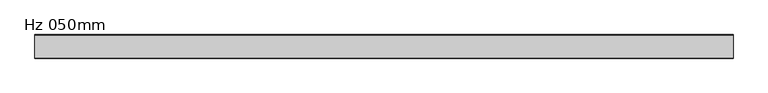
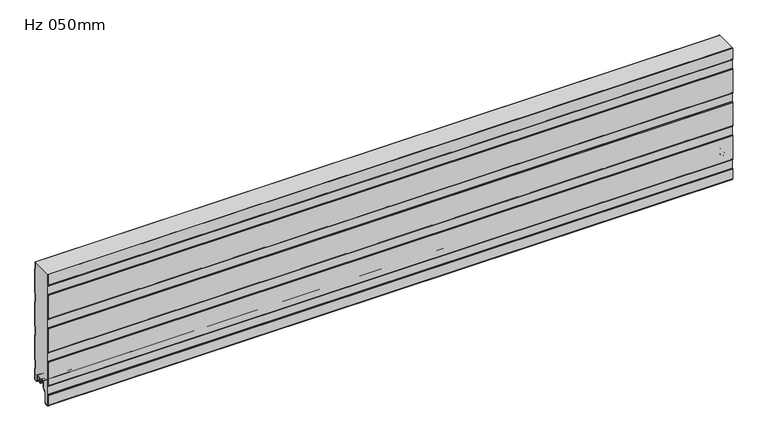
"""IFC4 building model written with IfcOpenShell, lengths in millimetres: plate geometry, KIP-MEX-KSS-1067-R19-CP-Hz-SL_SL : Hz 050mm."""

from ifc_helpers import new_model, si_unit, point, frame, frame_2d, origin, place, context, project, spatial, polyline, circle_curve, trimmed, segment, composite_curve, outline, extrude, source, transform, mapped, element, save
from ifc_brep_helpers import plane_surface, cylinder_surface, revolved_surface, advanced_brep


def hz_050mm_5bb0dca9(model_context):
    return source(origin(), model_context, "Body", "SolidModel", [
        extrude(outline(composite_curve([segment(trimmed(circle_curve(frame_2d((-21.7013969, 2.2313092)), 1.1999976), [point((-21.670875, 1.0316999))], [point((-20.5014003, 2.2328239))], True, "CARTESIAN"), True, "CONTINUOUS"), segment(polyline([(-20.5014003, 2.2328239), (-20.5014003, 5.9912173), (-21.8998791, 5.9912173), (-21.8998791, 8.6903283)]), True, "CONTINUOUS"), segment(trimmed(circle_curve(frame_2d((-25.2498744, 8.6903283)), 3.3499953), [point((-21.8998791, 8.6903283))], [point((-25.2498744, 12.0403236))], True, "CARTESIAN"), True, "CONTINUOUS"), segment(polyline([(-25.2498744, 12.0403236), (-29.6498656, 12.0403236)]), True, "CONTINUOUS"), segment(trimmed(circle_curve(frame_2d((-29.6498656, 8.6903283)), 3.3499953), [point((-29.6498656, 12.0403236))], [point((-32.9998609, 8.6903283))], True, "CARTESIAN"), True, "CONTINUOUS"), segment(polyline([(-32.9998609, 8.6903283), (-32.9998609, -3.1205608)]), True, "CONTINUOUS"), segment(trimmed(circle_curve(frame_2d((-34.6998555, -3.1205608)), 1.6999946), [point((-32.9998609, -3.1205608))], [point((-33.4977778, -4.3226385))], False, "CARTESIAN"), True, "CONTINUOUS"), segment(polyline([(-33.4977778, -4.3226385), (-38.9998489, -9.8247096), (-38.9998489, -31.9198392)]), True, "CONTINUOUS"), segment(trimmed(circle_curve(frame_2d((-41.6998415, -31.9198392)), 2.6999926), [point((-38.9998489, -31.9198392))], [point((-41.2184509, -34.5765709))], False, "CARTESIAN"), True, "CONTINUOUS"), segment(polyline([(-41.2184509, -34.5765709), (-46.2002718, -35.0125699)]), True, "CONTINUOUS"), segment(trimmed(circle_curve(frame_2d((-46.4243575, -32.4521176)), 2.5702393), [point((-46.2002718, -35.0125699))], [point((-48.9945967, -32.4521176))], False, "CARTESIAN"), True, "CONTINUOUS"), segment(polyline([(-48.9945967, -32.4521176), (-48.9945967, -10.4790962), (-47.7946282, -9.2791277), (-47.7946282, 10.4402849), (-48.9948589, 11.6405156), (-48.9948589, 65.7206473), (-47.7946282, 66.920878), (-47.7946282, 86.6402905), (-48.9948589, 87.8405213), (-48.9948589, 141.920653), (-47.7946282, 143.1208837), (-47.7946282, 162.8402962), (-48.9948589, 164.0405269), (-48.9948589, 218.1206587), (-47.7946282, 219.3208894), (-47.7946282, 239.0403019), (-48.9948589, 240.2405326), (-48.9948589, 266.0), (-2.2002391, 266.0), (-2.2002391, 251.0192115), (-1.0000084, 249.6335785), (-1.0000084, 195.5801631), (-2.2002391, 194.1945302), (-2.2002391, 174.8193639), (-1.0000084, 173.4337309), (-1.0000084, 119.3803155), (-2.2002391, 117.9946826), (-2.2002391, 98.6195163), (-1.0000084, 97.2338833), (-1.0000084, 43.1804679), (-2.2002391, 41.794835), (-2.2002391, 22.4196687), (-1.0, 21.034026), (-1.0, -3.4662506), (-5.2315473, -3.4662506)]), True, "CONTINUOUS"), segment(trimmed(circle_curve(frame_2d((-5.2315473, -1.6962564)), 1.7699942), [point((-5.2315473, -3.4662506))], [point((-7.0015415, -1.6962564))], False, "CARTESIAN"), True, "CONTINUOUS"), segment(polyline([(-7.0015415, -1.6962564), (-7.0015415, 8.7237222)]), True, "CONTINUOUS"), segment(trimmed(circle_curve(frame_2d((-10.3015374, 8.7237222)), 3.2999959), [point((-7.0015415, 8.7237222))], [point((-10.3015374, 12.023718))], True, "CARTESIAN"), True, "CONTINUOUS"), segment(polyline([(-10.3015374, 12.023718), (-14.7015286, 12.023718)]), True, "CONTINUOUS"), segment(trimmed(circle_curve(frame_2d((-14.7015286, 8.7237223)), 3.2999957), [point((-14.7015286, 12.023718))], [point((-18.0015243, 8.7237223))], True, "CARTESIAN"), True, "CONTINUOUS"), segment(polyline([(-18.0015243, 8.7237223), (-18.0015243, 6.0315125), (-19.0015188, 6.0315125), (-19.0015188, 2.0313089)]), True, "CONTINUOUS"), segment(trimmed(circle_curve(frame_2d((-18.0015216, 2.0313089)), 0.9999972), [point((-19.0015188, 2.0313089))], [point((-18.0015275, 1.0313117))], True, "CARTESIAN"), True, "CONTINUOUS"), segment(polyline([(-18.0015275, 1.0313117), (-19.0328392, 0.0), (-20.6391751, 0.0), (-21.670875, 1.0316999)]), True, "CONTINUOUS")], self_intersect=False)), frame((-740.0, 0.0, 0.0), z_axis=(1.0, 0.0, 0.0), x_axis=(0.0, 1.0, 0.0)), (0.0, 0.0, 1.0), 1480.0),
        advanced_brep(
        [(-740.0, -17.0015159, 2.0313088), (-740.0, -18.0015191, 1.0313116), (-740.0, -19.0015105, 2.0313088), (-740.0, -19.0015105, 6.0315125), (-740.0, -18.0015159, 6.0315125), (-740.0, -18.0015159, 8.7237223), (-740.0, -14.7015202, 12.023718), (-740.0, -10.301529, 12.023718), (-740.0, -7.0015335, 8.7237225), (-740.0, -7.0015335, -1.6962564), (-740.0, -5.2315393, -3.4662506), (-740.0, -0.9999916, -3.4662506), (-740.0, -0.9999916, 21.034026), (-740.0, -2.2002307, 22.4196686), (-740.0, -2.2002307, 41.7948349), (-740.0, -1.0, 43.1804679), (-740.0, -1.0, 97.2338833), (-740.0, -2.2002307, 98.6195162), (-740.0, -2.2002307, 117.9946825), (-740.0, -1.0, 119.3803155), (-740.0, -1.0, 173.4337309), (-740.0, -2.2002307, 174.8193638), (-740.0, -2.2002307, 194.1945301), (-740.0, -1.0, 195.5801631), (-740.0, -1.0, 249.6335785), (-740.0, -2.2002307, 251.0192114), (-740.0, -2.2002307, 266.0), (-740.0, -1.2002307, 266.0), (-740.0, -1.2002307, 251.3920919), (-740.0, -0.3417885, 250.4010442), (-740.0, 0.0, 249.4844273), (-740.0, 0.0, 195.7293142), (-740.0, -0.3417885, 194.8126973), (-740.0, -1.2002307, 193.8216497), (-740.0, -1.2002307, 175.1922443), (-740.0, -0.3417885, 174.2011966), (-740.0, 0.0, 173.2845797), (-740.0, 0.0, 119.5294666), (-740.0, -0.3417885, 118.6128497), (-740.0, -1.2002307, 117.6218021), (-740.0, -1.2002307, 98.9923967), (-740.0, -0.3417885, 98.001349), (-740.0, 0.0, 97.0847321), (-740.0, 0.0, 43.329619), (-740.0, -0.3417885, 42.4130021), (-740.0, -1.2002307, 41.4219545), (-740.0, -1.2002307, 22.7925491), (-740.0, -0.3417885, 21.8015014), (-740.0, 0.0, 20.8847931), (-740.0, 8.4e-06, -3.0662545), (-740.0, -1.3999878, -4.4662506), (-740.0, -5.2315393, -4.4662506), (-740.0, -8.0015335, -1.6962564), (-740.0, -8.0015335, 8.7237225), (-740.0, -10.301529, 11.023718), (-740.0, -14.7015202, 11.023718), (-740.0, -17.0015159, 8.7237223), (740.0, -17.0015159, 2.0313088), (740.0, -17.0015159, 8.7237223), (740.0, -14.7015202, 11.023718), (740.0, -10.301529, 11.023718), (740.0, -8.0015335, 8.7237225), (740.0, -8.0015335, -1.6962564), (740.0, -5.2315393, -4.4662506), (740.0, -1.3999878, -4.4662506), (740.0, 8.4e-06, -3.0662545), (740.0, 8.4e-06, 20.8848845), (740.0, -0.3417885, 21.8015014), (740.0, -1.2002307, 22.7925491), (740.0, -1.2002307, 41.4219545), (740.0, -0.3417885, 42.4130021), (740.0, 0.0, 43.329619), (740.0, 0.0, 97.0847321), (740.0, -0.3417885, 98.001349), (740.0, -1.2002307, 98.9923967), (740.0, -1.2002307, 117.6218021), (740.0, -0.3417885, 118.6128497), (740.0, 0.0, 119.5294666), (740.0, 0.0, 173.2845797), (740.0, -0.3417885, 174.2011966), (740.0, -1.2002307, 175.1922443), (740.0, -1.2002307, 193.8216497), (740.0, -0.3417885, 194.8126973), (740.0, 0.0, 195.7293142), (740.0, 0.0, 249.4844273), (740.0, -0.3417885, 250.4010442), (740.0, -1.2002307, 251.3920919), (740.0, -1.2002307, 266.0), (740.0, -2.2002307, 266.0), (740.0, -2.2002307, 251.0192114), (740.0, -1.0, 249.6335785), (740.0, -1.0, 195.5801631), (740.0, -2.2002307, 194.1945301), (740.0, -2.2002307, 174.8193638), (740.0, -1.0, 173.4337309), (740.0, -1.0, 119.3803155), (740.0, -2.2002307, 117.9946825), (740.0, -2.2002307, 98.6195162), (740.0, -1.0, 97.2338833), (740.0, -1.0, 43.1804679), (740.0, -2.2002307, 41.7948349), (740.0, -2.2002307, 22.4196686), (740.0, -0.9999916, 21.034026), (740.0, -0.9999916, -3.4662506), (740.0, -5.2315393, -3.4662506), (740.0, -7.0015335, -1.6962564), (740.0, -7.0015335, 8.7237225), (740.0, -10.301529, 12.023718), (740.0, -14.7015202, 12.023718), (740.0, -18.0015159, 8.7237223), (740.0, -18.0015159, 6.0315125), (740.0, -19.0015105, 6.0315125), (740.0, -19.0015105, 2.0313088), (740.0, -18.0015192, 1.0313116)],
        [
            (0, 1, circle_curve(frame((-740.0, -18.0015132, 2.0313088), z_axis=(-1.0, 0.0, 0.0), x_axis=(0.0, 0.0, 1.0)), 0.9999973)),
            (1, 2, circle_curve(frame((-740.0, -18.0015133, 2.0313088), z_axis=(-1.0, 0.0, 0.0), x_axis=(0.0, 0.0, 1.0)), 0.9999972)),
            (2, 3),
            (3, 4),
            (4, 5),
            (5, 6, circle_curve(frame((-740.0, -14.7015202, 8.7237223), z_axis=(-1.0, 0.0, 0.0), x_axis=(0.0, 0.0, 1.0)), 3.2999957)),
            (6, 7),
            (7, 8, circle_curve(frame((-740.0, -10.301529, 8.7237225), z_axis=(-1.0, 0.0, 0.0), x_axis=(0.0, 0.0, 1.0)), 3.2999955)),
            (8, 9),
            (9, 10, circle_curve(frame((-740.0, -5.2315393, -1.6962564), z_axis=(1.0, 0.0, 0.0), x_axis=(0.0, 0.0, 1.0)), 1.7699942)),
            (10, 11),
            (11, 12),
            (12, 13),
            (13, 14),
            (14, 15),
            (15, 16),
            (16, 17),
            (17, 18),
            (18, 19),
            (19, 20),
            (20, 21),
            (21, 22),
            (22, 23),
            (23, 24),
            (24, 25),
            (25, 26),
            (26, 27),
            (27, 28),
            (28, 29),
            (29, 30, circle_curve(frame((-740.0, -1.3999972, 249.4844273), z_axis=(-1.0, 0.0, 0.0), x_axis=(0.0, 0.0, 1.0)), 1.3999972)),
            (30, 31),
            (31, 32, circle_curve(frame((-740.0, -1.3999972, 195.7293142), z_axis=(-1.0, 0.0, 0.0), x_axis=(0.0, 0.0, 1.0)), 1.3999972)),
            (32, 33),
            (33, 34),
            (34, 35),
            (35, 36, circle_curve(frame((-740.0, -1.3999972, 173.2845797), z_axis=(-1.0, 0.0, 0.0), x_axis=(0.0, 0.0, 1.0)), 1.3999972)),
            (36, 37),
            (37, 38, circle_curve(frame((-740.0, -1.3999972, 119.5294666), z_axis=(-1.0, 0.0, 0.0), x_axis=(0.0, 0.0, 1.0)), 1.3999972)),
            (38, 39),
            (39, 40),
            (40, 41),
            (41, 42, circle_curve(frame((-740.0, -1.3999972, 97.0847321), z_axis=(-1.0, 0.0, 0.0), x_axis=(0.0, 0.0, 1.0)), 1.3999972)),
            (42, 43),
            (43, 44, circle_curve(frame((-740.0, -1.3999972, 43.329619), z_axis=(-1.0, 0.0, 0.0), x_axis=(0.0, 0.0, 1.0)), 1.3999972)),
            (44, 45),
            (45, 46),
            (46, 47),
            (47, 48, circle_curve(frame((-740.0, -1.3999972, 20.8848845), z_axis=(-1.0, 0.0, 0.0), x_axis=(0.0, 0.0, 1.0)), 1.3999972)),
            (48, 49),
            (49, 50, circle_curve(frame((-740.0, -1.3999878, -3.0662545), z_axis=(-1.0, 0.0, 0.0), x_axis=(0.0, 0.0, 1.0)), 1.3999962)),
            (50, 51),
            (51, 52, circle_curve(frame((-740.0, -5.2315393, -1.6962564), z_axis=(-1.0, 0.0, 0.0), x_axis=(0.0, 0.0, 1.0)), 2.7699942)),
            (52, 53),
            (53, 54, circle_curve(frame((-740.0, -10.301529, 8.7237225), z_axis=(1.0, 0.0, 0.0), x_axis=(0.0, 0.0, 1.0)), 2.2999955)),
            (54, 55),
            (55, 56, circle_curve(frame((-740.0, -14.7015202, 8.7237223), z_axis=(1.0, 0.0, 0.0), x_axis=(0.0, 0.0, 1.0)), 2.2999957)),
            (56, 0),
            (57, 58),
            (58, 59, circle_curve(frame((740.0, -14.7015202, 8.7237223), z_axis=(-1.0, 0.0, 0.0), x_axis=(0.0, 0.0, 1.0)), 2.2999957)),
            (59, 60),
            (60, 61, circle_curve(frame((740.0, -10.301529, 8.7237225), z_axis=(-1.0, 0.0, 0.0), x_axis=(0.0, 0.0, 1.0)), 2.2999955)),
            (61, 62),
            (62, 63, circle_curve(frame((740.0, -5.2315393, -1.6962564), z_axis=(1.0, 0.0, 0.0), x_axis=(0.0, 0.0, 1.0)), 2.7699942)),
            (63, 64),
            (64, 65, circle_curve(frame((740.0, -1.3999878, -3.0662545), z_axis=(1.0, 0.0, 0.0), x_axis=(0.0, 0.0, 1.0)), 1.3999962)),
            (65, 66),
            (66, 67, circle_curve(frame((740.0, -1.3999972, 20.8848845), z_axis=(1.0, 0.0, 0.0), x_axis=(0.0, 0.0, 1.0)), 1.3999972)),
            (67, 68),
            (68, 69),
            (69, 70),
            (70, 71, circle_curve(frame((740.0, -1.3999972, 43.329619), z_axis=(1.0, 0.0, 0.0), x_axis=(0.0, 0.0, 1.0)), 1.3999972)),
            (71, 72),
            (72, 73, circle_curve(frame((740.0, -1.3999972, 97.0847321), z_axis=(1.0, 0.0, 0.0), x_axis=(0.0, 0.0, 1.0)), 1.3999972)),
            (73, 74),
            (74, 75),
            (75, 76),
            (76, 77, circle_curve(frame((740.0, -1.3999972, 119.5294666), z_axis=(1.0, 0.0, 0.0), x_axis=(0.0, 0.0, 1.0)), 1.3999972)),
            (77, 78),
            (78, 79, circle_curve(frame((740.0, -1.3999972, 173.2845797), z_axis=(1.0, 0.0, 0.0), x_axis=(0.0, 0.0, 1.0)), 1.3999972)),
            (79, 80),
            (80, 81),
            (81, 82),
            (82, 83, circle_curve(frame((740.0, -1.3999972, 195.7293142), z_axis=(1.0, 0.0, 0.0), x_axis=(0.0, 0.0, 1.0)), 1.3999972)),
            (83, 84),
            (84, 85, circle_curve(frame((740.0, -1.3999972, 249.4844273), z_axis=(1.0, 0.0, 0.0), x_axis=(0.0, 0.0, 1.0)), 1.3999972)),
            (85, 86),
            (86, 87),
            (87, 88),
            (88, 89),
            (89, 90),
            (90, 91),
            (91, 92),
            (92, 93),
            (93, 94),
            (94, 95),
            (95, 96),
            (96, 97),
            (97, 98),
            (98, 99),
            (99, 100),
            (100, 101),
            (101, 102),
            (102, 103),
            (103, 104),
            (104, 105, circle_curve(frame((740.0, -5.2315393, -1.6962564), z_axis=(-1.0, 0.0, 0.0), x_axis=(0.0, 0.0, 1.0)), 1.7699942)),
            (105, 106),
            (106, 107, circle_curve(frame((740.0, -10.301529, 8.7237225), z_axis=(1.0, 0.0, 0.0), x_axis=(0.0, 0.0, 1.0)), 3.2999955)),
            (107, 108),
            (108, 109, circle_curve(frame((740.0, -14.7015202, 8.7237223), z_axis=(1.0, 0.0, 0.0), x_axis=(0.0, 0.0, 1.0)), 3.2999957)),
            (109, 110),
            (110, 111),
            (111, 112),
            (112, 113, circle_curve(frame((740.0, -18.0015133, 2.0313088), z_axis=(1.0, 0.0, 0.0), x_axis=(0.0, 0.0, 1.0)), 0.9999972)),
            (113, 57, circle_curve(frame((740.0, -18.0015132, 2.0313088), z_axis=(1.0, 0.0, 0.0), x_axis=(0.0, 0.0, 1.0)), 0.9999973)),
            (56, 58),
            (57, 0),
            (55, 59),
            (54, 60),
            (53, 61),
            (52, 62),
            (51, 63),
            (50, 64),
            (49, 65),
            (48, 66),
            (47, 67),
            (46, 68),
            (45, 69),
            (44, 70),
            (43, 71),
            (42, 72),
            (41, 73),
            (40, 74),
            (39, 75),
            (38, 76),
            (37, 77),
            (36, 78),
            (35, 79),
            (34, 80),
            (33, 81),
            (32, 82),
            (31, 83),
            (30, 84),
            (29, 85),
            (28, 86),
            (27, 87),
            (88, 26),
            (25, 89),
            (24, 90),
            (23, 91),
            (22, 92),
            (21, 93),
            (20, 94),
            (19, 95),
            (18, 96),
            (17, 97),
            (16, 98),
            (15, 99),
            (14, 100),
            (13, 101),
            (12, 102),
            (11, 103),
            (10, 104),
            (9, 105),
            (8, 106),
            (7, 107),
            (6, 108),
            (5, 109),
            (4, 110),
            (3, 111),
            (2, 112),
            (1, 113),
        ],
        [
            plane_surface(frame((-740.0, 0.0, 533.4), z_axis=(-1.0, 0.0, 0.0), x_axis=(0.0, 1.0, 0.0))),
            plane_surface(frame((740.0, 0.0, 533.4), z_axis=(1.0, 0.0, 0.0), x_axis=(0.0, 1.0, 0.0))),
            plane_surface(frame((-740.0, -17.0015159, 2.0313088), z_axis=(0.0, 1.0, 0.0), x_axis=(1.0, 0.0, 0.0))),
            revolved_surface(polyline([(740.0, -14.7015202, 11.023718), (-740.0, -14.7015202, 11.023718)]), (-740.0, -14.7015202, 8.7237223), (1.0, 0.0, 0.0)),
            plane_surface(frame((-740.0, -14.7015202, 11.023718), z_axis=(0.0, 0.0, -1.0), x_axis=(1.0, 0.0, 0.0))),
            revolved_surface(polyline([(740.0, -10.301529, 11.023717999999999), (-740.0, -10.301529, 11.023717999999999)]), (-740.0, -10.301529, 8.7237225), (1.0, 0.0, 0.0)),
            plane_surface(frame((-740.0, -8.0015335, 8.7237225), z_axis=(0.0, -1.0, 0.0), x_axis=(1.0, 0.0, 0.0))),
            cylinder_surface(frame((-740.0, -5.2315393, -1.6962564), z_axis=(-1.0, 0.0, 0.0), x_axis=(0.0, 0.0, 1.0)), 2.7699942),
            plane_surface(frame((-740.0, -5.2315393, -4.4662506), z_axis=(0.0, 0.0, -1.0), x_axis=(1.0, 0.0, 0.0))),
            cylinder_surface(frame((-740.0, -1.3999878, -3.0662545), z_axis=(-1.0, 0.0, 0.0), x_axis=(0.0, 0.0, 1.0)), 1.3999962),
            plane_surface(frame((-740.0, 8.4e-06, -3.0662545), z_axis=(0.0, 1.0, 0.0), x_axis=(1.0, 0.0, 0.0))),
            cylinder_surface(frame((-740.0, -1.3999972, 20.8848845), z_axis=(-1.0, 0.0, 0.0), x_axis=(0.0, 0.0, 1.0)), 1.3999972),
            plane_surface(frame((-740.0, -0.3417885, 21.8015014), z_axis=(0.0, 0.755864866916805, 0.6547276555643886), x_axis=(1.0, 0.0, 0.0))),
            plane_surface(frame((-740.0, -1.2002307, 32.1072518), z_axis=(0.0, 1.0, 0.0), x_axis=(1.0, 0.0, 0.0))),
            plane_surface(frame((-740.0, -1.2002307, 41.4219545), z_axis=(0.0, 0.755864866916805, -0.6547276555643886), x_axis=(1.0, 0.0, 0.0))),
            cylinder_surface(frame((-740.0, -1.3999972, 43.329619), z_axis=(-1.0, 0.0, 0.0), x_axis=(0.0, 0.0, 1.0)), 1.3999972),
            plane_surface(frame((-740.0, 0.0, 43.329619), z_axis=(0.0, 1.0, 0.0), x_axis=(1.0, 0.0, 0.0))),
            cylinder_surface(frame((-740.0, -1.3999972, 97.0847321), z_axis=(-1.0, 0.0, 0.0), x_axis=(0.0, 0.0, 1.0)), 1.3999972),
            plane_surface(frame((-740.0, -0.3417885, 98.001349), z_axis=(0.0, 0.755864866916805, 0.6547276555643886), x_axis=(1.0, 0.0, 0.0))),
            plane_surface(frame((-740.0, -1.2002307, 108.3070994), z_axis=(0.0, 1.0, 0.0), x_axis=(1.0, 0.0, 0.0))),
            plane_surface(frame((-740.0, -1.2002307, 117.6218021), z_axis=(0.0, 0.755864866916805, -0.6547276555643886), x_axis=(1.0, 0.0, 0.0))),
            cylinder_surface(frame((-740.0, -1.3999972, 119.5294666), z_axis=(-1.0, 0.0, 0.0), x_axis=(0.0, 0.0, 1.0)), 1.3999972),
            plane_surface(frame((-740.0, 0.0, 119.5294666), z_axis=(0.0, 1.0, 0.0), x_axis=(1.0, 0.0, 0.0))),
            cylinder_surface(frame((-740.0, -1.3999972, 173.2845797), z_axis=(-1.0, 0.0, 0.0), x_axis=(0.0, 0.0, 1.0)), 1.3999972),
            plane_surface(frame((-740.0, -0.3417885, 174.2011966), z_axis=(0.0, 0.755864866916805, 0.6547276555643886), x_axis=(1.0, 0.0, 0.0))),
            plane_surface(frame((-740.0, -1.2002307, 184.506947), z_axis=(0.0, 1.0, 0.0), x_axis=(1.0, 0.0, 0.0))),
            plane_surface(frame((-740.0, -1.2002307, 193.8216497), z_axis=(0.0, 0.755864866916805, -0.6547276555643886), x_axis=(1.0, 0.0, 0.0))),
            cylinder_surface(frame((-740.0, -1.3999972, 195.7293142), z_axis=(-1.0, 0.0, 0.0), x_axis=(0.0, 0.0, 1.0)), 1.3999972),
            plane_surface(frame((-740.0, 0.0, 195.7293142), z_axis=(0.0, 1.0, 0.0), x_axis=(1.0, 0.0, 0.0))),
            cylinder_surface(frame((-740.0, -1.3999972, 249.4844273), z_axis=(-1.0, 0.0, 0.0), x_axis=(0.0, 0.0, 1.0)), 1.3999972),
            plane_surface(frame((-740.0, -0.3417885, 250.4010442), z_axis=(0.0, 0.755864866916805, 0.6547276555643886), x_axis=(1.0, 0.0, 0.0))),
            plane_surface(frame((-740.0, -1.2002307, 260.7067946), z_axis=(0.0, 1.0, 0.0), x_axis=(1.0, 0.0, 0.0))),
            plane_surface(frame((-740.0, -2.2002307, 270.3943777), z_axis=(0.0, -1.0, 0.0), x_axis=(1.0, 0.0, 0.0))),
            plane_surface(frame((-740.0, -2.2002307, 251.0192114), z_axis=(0.0, -0.755864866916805, -0.6547276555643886), x_axis=(1.0, 0.0, 0.0))),
            plane_surface(frame((-740.0, -1.0, 249.6335785), z_axis=(0.0, -1.0, 0.0), x_axis=(1.0, 0.0, 0.0))),
            plane_surface(frame((-740.0, -1.0, 195.5801631), z_axis=(0.0, -0.755864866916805, 0.6547276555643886), x_axis=(1.0, 0.0, 0.0))),
            plane_surface(frame((-740.0, -2.2002307, 194.1945301), z_axis=(0.0, -1.0, 0.0), x_axis=(1.0, 0.0, 0.0))),
            plane_surface(frame((-740.0, -2.2002307, 174.8193638), z_axis=(0.0, -0.755864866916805, -0.6547276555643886), x_axis=(1.0, 0.0, 0.0))),
            plane_surface(frame((-740.0, -1.0, 173.4337309), z_axis=(0.0, -1.0, 0.0), x_axis=(1.0, 0.0, 0.0))),
            plane_surface(frame((-740.0, -1.0, 119.3803155), z_axis=(0.0, -0.755864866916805, 0.6547276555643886), x_axis=(1.0, 0.0, 0.0))),
            plane_surface(frame((-740.0, -2.2002307, 117.9946825), z_axis=(0.0, -1.0, 0.0), x_axis=(1.0, 0.0, 0.0))),
            plane_surface(frame((-740.0, -2.2002307, 98.6195162), z_axis=(0.0, -0.755864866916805, -0.6547276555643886), x_axis=(1.0, 0.0, 0.0))),
            plane_surface(frame((-740.0, -1.0, 97.2338833), z_axis=(0.0, -1.0, 0.0), x_axis=(1.0, 0.0, 0.0))),
            plane_surface(frame((-740.0, -1.0, 43.1804679), z_axis=(0.0, -0.755864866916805, 0.6547276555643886), x_axis=(1.0, 0.0, 0.0))),
            plane_surface(frame((-740.0, -2.2002307, 41.7948349), z_axis=(0.0, -1.0, 0.0), x_axis=(1.0, 0.0, 0.0))),
            plane_surface(frame((-740.0, -2.2002307, 22.4196686), z_axis=(0.0, -0.755864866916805, -0.6547276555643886), x_axis=(1.0, 0.0, 0.0))),
            plane_surface(frame((-740.0, -0.9999916, 21.034026), z_axis=(0.0, -1.0, 0.0), x_axis=(1.0, 0.0, 0.0))),
            plane_surface(frame((-740.0, -0.9999916, -3.4662506), z_axis=(0.0, 0.0, 1.0), x_axis=(1.0, 0.0, 0.0))),
            revolved_surface(polyline([(740.0, -5.2315393, 0.07373779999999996), (-740.0, -5.2315393, 0.07373779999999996)]), (-740.0, -5.2315393, -1.6962564), (1.0, 0.0, 0.0)),
            plane_surface(frame((-740.0, -7.0015335, -1.6962564), z_axis=(0.0, 1.0, 0.0), x_axis=(1.0, 0.0, 0.0))),
            cylinder_surface(frame((-740.0, -10.301529, 8.7237225), z_axis=(-1.0, 0.0, 0.0), x_axis=(0.0, 0.0, 1.0)), 3.2999955),
            plane_surface(frame((-740.0, -10.301529, 12.023718), z_axis=(0.0, 0.0, 1.0), x_axis=(1.0, 0.0, 0.0))),
            cylinder_surface(frame((-740.0, -14.7015202, 8.7237223), z_axis=(-1.0, 0.0, 0.0), x_axis=(0.0, 0.0, 1.0)), 3.2999957),
            plane_surface(frame((-740.0, -18.0015159, 8.7237223), z_axis=(0.0, -1.0, 0.0), x_axis=(1.0, 0.0, 0.0))),
            plane_surface(frame((-740.0, -18.0015159, 6.0315125), z_axis=(0.0, 0.0, 1.0), x_axis=(1.0, 0.0, 0.0))),
            plane_surface(frame((-740.0, -19.0015105, 6.0315125), z_axis=(0.0, -1.0, 0.0), x_axis=(1.0, 0.0, 0.0))),
            cylinder_surface(frame((-740.0, -18.0015133, 2.0313088), z_axis=(-1.0, 0.0, 0.0), x_axis=(0.0, 0.0, 1.0)), 0.9999972),
            cylinder_surface(frame((-740.0, -18.0015132, 2.0313088), z_axis=(-1.0, 0.0, 0.0), x_axis=(0.0, 0.0, 1.0)), 0.9999973),
            plane_surface(frame((740.0, 10.0, 266.0), z_axis=(0.0, 0.0, 1.0), x_axis=(-1.0, 0.0, 0.0))),
        ],
        [
            (0, [[1, 2, 3, 4, 5, 6, 7, 8, 9, 10, 11, 12, 13, 14, 15, 16, 17, 18, 19, 20, 21, 22, 23, 24, 25, 26, 27, 28, 29, 30, 31, 32, 33, 34, 35, 36, 37, 38, 39, 40, 41, 42, 43, 44, 45, 46, 47, 48, 49, 50, 51, 52, 53, 54, 55, 56, 57]]),
            (1, [[58, 59, 60, 61, 62, 63, 64, 65, 66, 67, 68, 69, 70, 71, 72, 73, 74, 75, 76, 77, 78, 79, 80, 81, 82, 83, 84, 85, 86, 87, 88, 89, 90, 91, 92, 93, 94, 95, 96, 97, 98, 99, 100, 101, 102, 103, 104, 105, 106, 107, 108, 109, 110, 111, 112, 113, 114]]),
            (2, [[115, -58, 116, -57]]),
            (3, [[117, -59, -115, -56]]),
            (4, [[118, -60, -117, -55]]),
            (5, [[119, -61, -118, -54]]),
            (6, [[120, -62, -119, -53]]),
            (7, [[121, -63, -120, -52]]),
            (8, [[122, -64, -121, -51]]),
            (9, [[123, -65, -122, -50]]),
            (10, [[124, -66, -123, -49]]),
            (11, [[125, -67, -124, -48]]),
            (12, [[126, -68, -125, -47]]),
            (13, [[127, -69, -126, -46]]),
            (14, [[128, -70, -127, -45]]),
            (15, [[129, -71, -128, -44]]),
            (16, [[130, -72, -129, -43]]),
            (17, [[131, -73, -130, -42]]),
            (18, [[132, -74, -131, -41]]),
            (19, [[133, -75, -132, -40]]),
            (20, [[134, -76, -133, -39]]),
            (21, [[135, -77, -134, -38]]),
            (22, [[136, -78, -135, -37]]),
            (23, [[137, -79, -136, -36]]),
            (24, [[138, -80, -137, -35]]),
            (25, [[139, -81, -138, -34]]),
            (26, [[140, -82, -139, -33]]),
            (27, [[141, -83, -140, -32]]),
            (28, [[142, -84, -141, -31]]),
            (29, [[143, -85, -142, -30]]),
            (30, [[144, -86, -143, -29]]),
            (31, [[-28, 145, -87, -144]]),
            (32, [[-89, 146, -26, 147]]),
            (33, [[148, -90, -147, -25]]),
            (34, [[149, -91, -148, -24]]),
            (35, [[150, -92, -149, -23]]),
            (36, [[151, -93, -150, -22]]),
            (37, [[152, -94, -151, -21]]),
            (38, [[153, -95, -152, -20]]),
            (39, [[154, -96, -153, -19]]),
            (40, [[155, -97, -154, -18]]),
            (41, [[156, -98, -155, -17]]),
            (42, [[157, -99, -156, -16]]),
            (43, [[158, -100, -157, -15]]),
            (44, [[159, -101, -158, -14]]),
            (45, [[160, -102, -159, -13]]),
            (46, [[161, -103, -160, -12]]),
            (47, [[162, -104, -161, -11]]),
            (48, [[163, -105, -162, -10]]),
            (49, [[164, -106, -163, -9]]),
            (50, [[165, -107, -164, -8]]),
            (51, [[166, -108, -165, -7]]),
            (52, [[167, -109, -166, -6]]),
            (53, [[168, -110, -167, -5]]),
            (54, [[169, -111, -168, -4]]),
            (55, [[170, -112, -169, -3]]),
            (56, [[171, -113, -170, -2]]),
            (57, [[-116, -114, -171, -1]]),
            (58, [[-146, -88, -145, -27]]),
        ],
    ),
        extrude(outline(composite_curve([segment(trimmed(circle_curve(frame_2d((-48.6007733, -10.6415934)), 1.3998661), [point((-50.0006394, -10.6415934))], [point((-49.5333971, -9.5976403))], False, "CARTESIAN"), True, "CONTINUOUS"), segment(polyline([(-49.5333971, -9.5976403), (-48.8006709, -8.8649141), (-48.8006709, 10.0260713), (-49.5336365, 10.7590369)]), True, "CONTINUOUS"), segment(trimmed(circle_curve(frame_2d((-48.6009253, 11.8030877)), 1.3999972), [point((-49.5336365, 10.7590369))], [point((-50.0009016, 11.810741))], False, "CARTESIAN"), True, "CONTINUOUS"), segment(polyline([(-50.0009016, 11.810741), (-50.0009016, 65.5582542)]), True, "CONTINUOUS"), segment(trimmed(circle_curve(frame_2d((-48.6009044, 65.5582542)), 1.3999972), [point((-50.0009016, 65.5582542))], [point((-49.5336156, 66.602305))], False, "CARTESIAN"), True, "CONTINUOUS"), segment(polyline([(-49.5336156, 66.602305), (-48.8006709, 67.3352497), (-48.8006709, 86.2259189), (-49.5336365, 86.9588845)]), True, "CONTINUOUS"), segment(trimmed(circle_curve(frame_2d((-48.6009253, 88.0029353)), 1.3999972), [point((-49.5336365, 86.9588845))], [point((-50.0009016, 88.0105886))], False, "CARTESIAN"), True, "CONTINUOUS"), segment(polyline([(-50.0009016, 88.0105886), (-50.0009016, 141.7581018)]), True, "CONTINUOUS"), segment(trimmed(circle_curve(frame_2d((-48.6009044, 141.7581018)), 1.3999972), [point((-50.0009016, 141.7581018))], [point((-49.5336156, 142.8021526))], False, "CARTESIAN"), True, "CONTINUOUS"), segment(polyline([(-49.5336156, 142.8021526), (-48.8006709, 143.5350973), (-48.8006709, 162.4257665), (-49.5336365, 163.1587321)]), True, "CONTINUOUS"), segment(trimmed(circle_curve(frame_2d((-48.6009253, 164.2027829)), 1.3999972), [point((-49.5336365, 163.1587321))], [point((-50.0009016, 164.2104362))], False, "CARTESIAN"), True, "CONTINUOUS"), segment(polyline([(-50.0009016, 164.2104362), (-50.0009016, 217.9579494)]), True, "CONTINUOUS"), segment(trimmed(circle_curve(frame_2d((-48.6009044, 217.9579494)), 1.3999972), [point((-50.0009016, 217.9579494))], [point((-49.5336156, 219.0020002))], False, "CARTESIAN"), True, "CONTINUOUS"), segment(polyline([(-49.5336156, 219.0020002), (-48.8006709, 219.7349449), (-48.8006709, 238.6256141), (-49.5336365, 239.3585797)]), True, "CONTINUOUS"), segment(trimmed(circle_curve(frame_2d((-48.6009253, 240.4026305)), 1.3999972), [point((-49.5336365, 239.3585797))], [point((-50.0009016, 240.4102838))], False, "CARTESIAN"), True, "CONTINUOUS"), segment(polyline([(-50.0009016, 240.4102838), (-50.0009016, 266.0), (-49.0009016, 266.0), (-49.0009016, 240.2405326), (-47.8006709, 239.0403019), (-47.8006709, 219.3208894), (-49.0009016, 218.1206587), (-49.0009016, 164.0405269), (-47.8006709, 162.8402962), (-47.8006709, 143.1208837), (-49.0009016, 141.920653), (-49.0009016, 87.8405213), (-47.8006709, 86.6402905), (-47.8006709, 66.920878), (-49.0009016, 65.7206473), (-49.0009016, 11.6405156), (-47.8006709, 10.4402849), (-47.8006709, -9.2791277), (-49.0006394, -10.4790962), (-49.0006394, -32.4521176)]), True, "CONTINUOUS"), segment(trimmed(circle_curve(frame_2d((-46.4304001, -32.4521176)), 2.5702393), [point((-49.0006394, -32.4521176))], [point((-46.2063145, -35.0125699))], True, "CARTESIAN"), True, "CONTINUOUS"), segment(polyline([(-46.2063145, -35.0125699), (-41.2244936, -34.5765709)]), True, "CONTINUOUS"), segment(trimmed(circle_curve(frame_2d((-41.7058842, -31.9198392)), 2.6999926), [point((-41.2244936, -34.5765709))], [point((-39.0058916, -31.9198392))], True, "CARTESIAN"), True, "CONTINUOUS"), segment(polyline([(-39.0058916, -31.9198392), (-39.0058916, -9.8247096), (-33.5038205, -4.3226385)]), True, "CONTINUOUS"), segment(trimmed(circle_curve(frame_2d((-34.7058982, -3.1205608)), 1.6999946), [point((-33.5038205, -4.3226385))], [point((-33.0059036, -3.1205608))], True, "CARTESIAN"), True, "CONTINUOUS"), segment(polyline([(-33.0059036, -3.1205608), (-33.0059036, 8.6903283)]), True, "CONTINUOUS"), segment(trimmed(circle_curve(frame_2d((-29.6559083, 8.6903283)), 3.3499953), [point((-33.0059036, 8.6903283))], [point((-29.6559083, 12.0403236))], False, "CARTESIAN"), True, "CONTINUOUS"), segment(polyline([(-29.6559083, 12.0403236), (-25.2559171, 12.0403236)]), True, "CONTINUOUS"), segment(trimmed(circle_curve(frame_2d((-25.2559171, 8.6903283)), 3.3499953), [point((-25.2559171, 12.0403236))], [point((-21.9059218, 8.6903283))], False, "CARTESIAN"), True, "CONTINUOUS"), segment(polyline([(-21.9059218, 8.6903283), (-21.9059218, 5.9912173), (-20.5074429, 5.9912173), (-20.5074429, 2.2328239)]), True, "CONTINUOUS"), segment(trimmed(circle_curve(frame_2d((-21.7074396, 2.2313092)), 1.1999976), [point((-20.5074429, 2.2328239))], [point((-21.6769177, 1.0316999))], False, "CARTESIAN"), True, "CONTINUOUS"), segment(trimmed(circle_curve(frame_2d((-21.7074396, 2.2313092)), 1.1999976), [point((-21.6769177, 1.0316999))], [point((-22.9059218, 2.1710221))], False, "CARTESIAN"), True, "CONTINUOUS"), segment(polyline([(-22.9059218, 2.1710221), (-22.9059218, 8.6903283)]), True, "CONTINUOUS"), segment(trimmed(circle_curve(frame_2d((-25.2559171, 8.6903283)), 2.3499953), [point((-22.9059218, 8.6903283))], [point((-25.2559171, 11.0403236))], True, "CARTESIAN"), True, "CONTINUOUS"), segment(polyline([(-25.2559171, 11.0403236), (-29.6559083, 11.0403236)]), True, "CONTINUOUS"), segment(trimmed(circle_curve(frame_2d((-29.6559083, 8.6903283)), 2.3499953), [point((-29.6559083, 11.0403236))], [point((-32.0059036, 8.6903283))], True, "CARTESIAN"), True, "CONTINUOUS"), segment(polyline([(-32.0059036, 8.6903283), (-32.0059036, -3.1205608)]), True, "CONTINUOUS"), segment(trimmed(circle_curve(frame_2d((-34.7058982, -3.1205608)), 2.6999946), [point((-32.0059036, -3.1205608))], [point((-32.7967137, -5.0297453))], False, "CARTESIAN"), True, "CONTINUOUS"), segment(polyline([(-32.7967137, -5.0297453), (-37.6251312, -9.8581627)]), True, "CONTINUOUS"), segment(trimmed(circle_curve(frame_2d((-36.7058942, -10.7773997)), 1.2999974), [point((-37.6251312, -9.8581627))], [point((-38.0058916, -10.7773997))], True, "CARTESIAN"), True, "CONTINUOUS"), segment(polyline([(-38.0058916, -10.7773997), (-38.0058916, -31.9198392)]), True, "CONTINUOUS"), segment(trimmed(circle_curve(frame_2d((-41.7058842, -31.9198392)), 3.6999926), [point((-38.0058916, -31.9198392))], [point((-41.0950831, -35.5690675))], False, "CARTESIAN"), True, "CONTINUOUS"), segment(polyline([(-41.0950831, -35.5690675), (-46.1191297, -36.008762)]), True, "CONTINUOUS"), segment(trimmed(circle_curve(frame_2d((-46.4304001, -32.4521176)), 3.5702393), [point((-46.1191297, -36.008762))], [point((-50.0006394, -32.4521176))], False, "CARTESIAN"), True, "CONTINUOUS"), segment(polyline([(-50.0006394, -32.4521176), (-50.0006394, -10.6415934)]), True, "CONTINUOUS")], self_intersect=False)), frame((-740.0, 0.0, 0.0), z_axis=(1.0, 0.0, 0.0), x_axis=(0.0, 1.0, 0.0)), (0.0, 0.0, 1.0), 1480.0),
    ])


if __name__ == "__main__":
    model = new_model("IFC4")
    model_context = context("Model", 3, world=origin())
    ifc_project = project(units=[si_unit("LENGTHUNIT", "METRE", prefix="MILLI")], contexts=[model_context])
    site = spatial("IfcSite", under=ifc_project)
    building = spatial("IfcBuilding", under=site)
    placement = place(None, origin())
    hz_050mm_shape = hz_050mm_5bb0dca9(model_context)
    element("IfcPlate", 1, ObjectType="KIP-MEX-KSS-1067-R19-CP-Hz-SL_SL : Hz 050mm", at=placement, inside=building, context=model_context, shape_type="MappedRepresentation", body=[
        mapped(hz_050mm_shape, transform((0.0, 0.0, 0.0), x_axis=(1.0, 0.0, 0.0), y_axis=(0.0, 1.0, 0.0), z_axis=(0.0, 0.0, 1.0))),
    ])
    save(model, "model.ifc")
